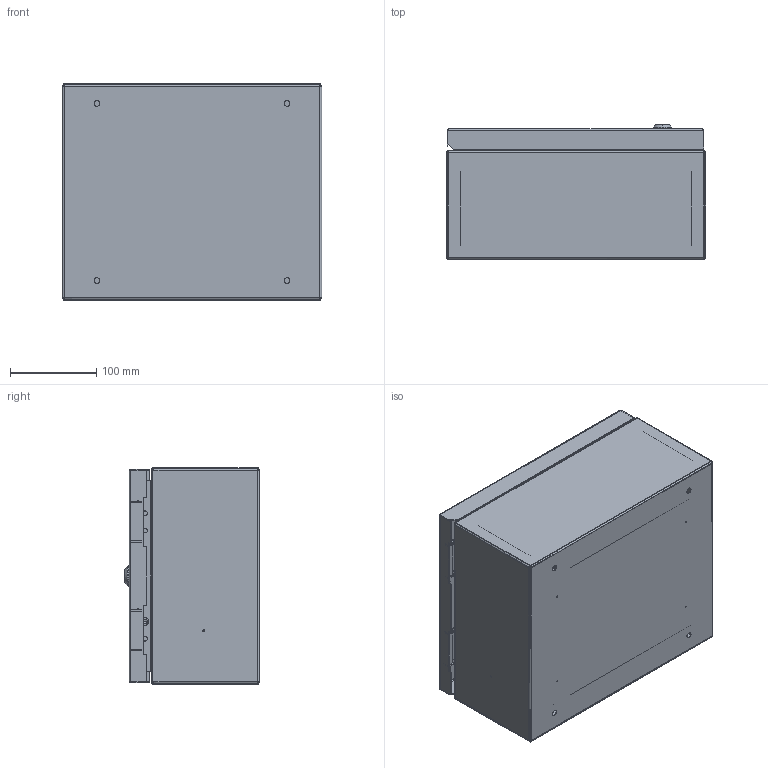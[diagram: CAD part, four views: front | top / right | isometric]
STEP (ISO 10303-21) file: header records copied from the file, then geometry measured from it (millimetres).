
FILE_DESCRIPTION (( 'STEP AP214' ), '1' );
FILE_NAME ('ÙÌÏ-231-250õ300õ150-IP31-ÓÕË3-ÊÝÀÇ.STEP', '2023-01-24T12:08:02', ( '' ), ( '' ), 'SwSTEP 2.0', 'SolidWorks 2018', '' );
FILE_SCHEMA (( 'AUTOMOTIVE_DESIGN' ));
Length unit declared in the file: millimetre
Products named in the file (1): ÙÌÏ-231-250õ300õ150-IP31-ÓÕË3-ÊÝÀÇ
Bounding box: 300 x 155.7 x 250 mm (x, y, z)
Surface area: 714132.8 mm2 (no closed solid volume)
Topology: 0 solids, 28 shells, 214 faces, 716 edges, 515 vertices
Faces by surface type: plane 122, cylinder 66, bspline 16, cone 4, torus 4, sphere 2
Entity records: 11192 total; most frequent: CARTESIAN_POINT 2744, DIRECTION 1246, ORIENTED_EDGE 1052, EDGE_CURVE 716, VERTEX_POINT 515, LINE 448, VECTOR 448, AXIS2_PLACEMENT_3D 399
